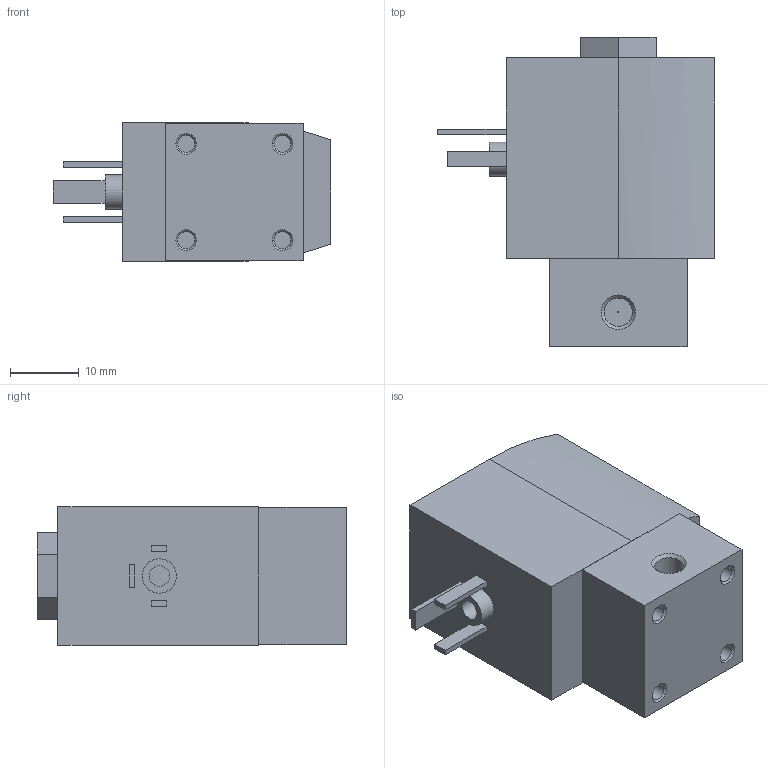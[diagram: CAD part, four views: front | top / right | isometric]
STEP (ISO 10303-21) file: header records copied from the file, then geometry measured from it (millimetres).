
FILE_DESCRIPTION(/* description */ ('STEP AP214'),/* implementation_level */ '2;1');
FILE_NAME(/* name */ '6011-00134084-2_2-Way-mini-solenoid-valve',/* time_stamp */ '2024-02-20T13:05:29+01:00',/* author */ ('License CC BY-ND 4.0'),/* organization */ ('CADENAS'),/* preprocessor_version */ 'ST-DEVELOPER v19.3',/* originating_system */ 'PARTsolutions',/* authorisation */ ' ');
FILE_SCHEMA (('AUTOMOTIVE_DESIGN {1 0 10303 214 3 1 1}'));
Length unit declared in the file: millimetre
Products named in the file (1): 6011-00134084-2/2-Way-mini-solenoid-valve
Bounding box: 40.3 x 45 x 20.2 mm (x, y, z)
Volume: 22461.7 mm3; surface area: 5707.5 mm2
Topology: 1 solids, 1 shells, 61 faces, 131 edges, 84 vertices
Faces by surface type: plane 44, cylinder 11, cone 6
Full cylindrical faces by diameter (mm): 0.2 x1, 2.459 x4, 3 x1, 4.134 x2, 5 x1
Entity records: 2020 total; most frequent: DIRECTION 272, CARTESIAN_POINT 262, ORIENTED_EDGE 232, EDGE_CURVE 116, AXIS2_PLACEMENT_3D 94, EDGE_LOOP 90, FACE_BOUND 90, LINE 84
